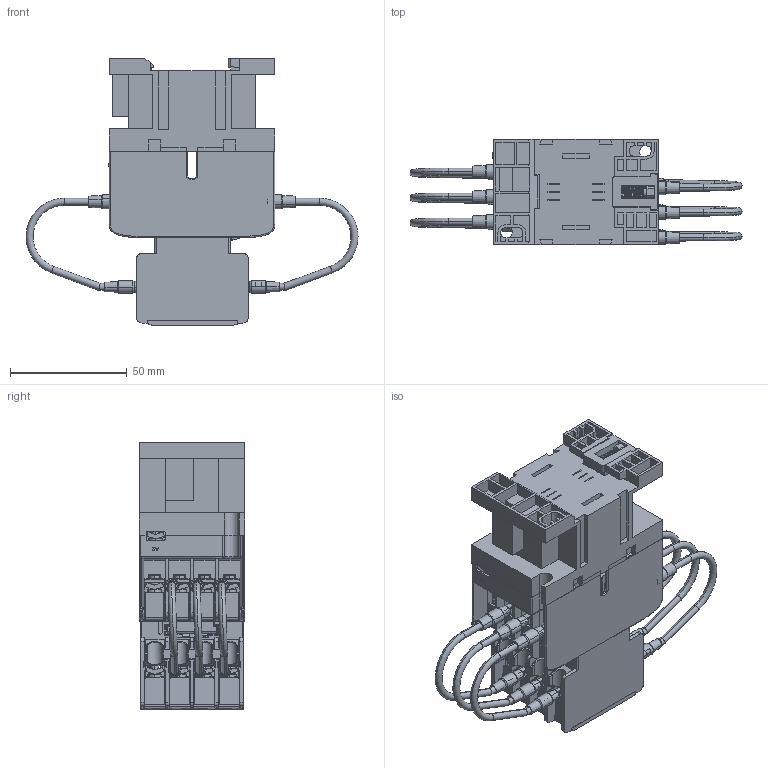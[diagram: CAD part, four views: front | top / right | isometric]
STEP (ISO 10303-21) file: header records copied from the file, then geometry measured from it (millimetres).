
FILE_DESCRIPTION((''),'2;1');
FILE_NAME('2TZD_401_1023_SW0002','2022-04-11T',('wangchen1'),(''),'PRO/ENGINEER BY PARAMETRIC TECHNOLOGY CORPORATION, 2017170','PRO/ENGINEER BY PARAMETRIC TECHNOLOGY CORPORATION, 2017170','');
FILE_SCHEMA(('CONFIG_CONTROL_DESIGN'));
Products named in the file (1): 2TZD_401_1023_SW0002
Bounding box: 142.22 x 45 x 114.55 mm (x, y, z)
Surface area: 124137.1 mm2 (no closed solid volume)
Topology: 0 solids, 219 shells, 3870 faces, 17314 edges, 13160 vertices
Faces by surface type: plane 2498, cylinder 999, cone 168, torus 97, bspline 64, sphere 44
Entity records: 210544 total; most frequent: CARTESIAN_POINT 53176, DIRECTION 25955, ORIENTED_EDGE 25919, EDGE_CURVE 17314, VERTEX_POINT 13160, VECTOR 12969, LINE 12969, AXIS2_PLACEMENT_3D 6493
